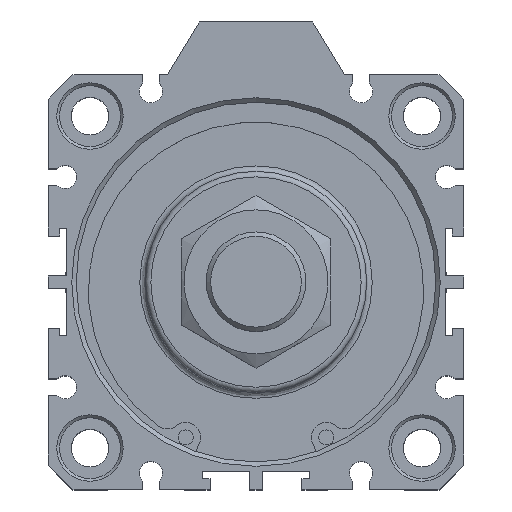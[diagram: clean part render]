
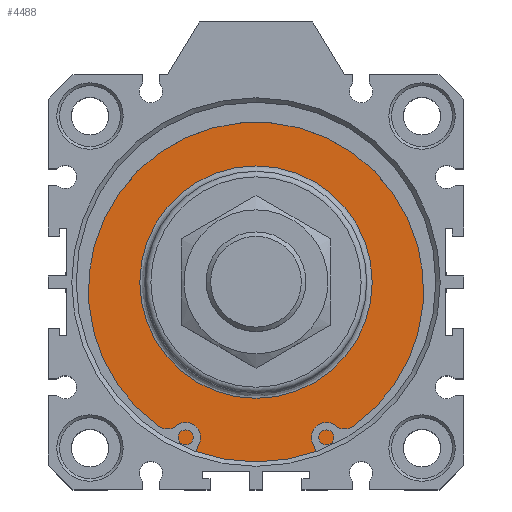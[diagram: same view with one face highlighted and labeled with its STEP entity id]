
A CAD part, top view. The second image highlights one B-rep face of the part: STEP entity #4488.
In plain terms, the highlighted planar face has unit normal (0, 0, 1).
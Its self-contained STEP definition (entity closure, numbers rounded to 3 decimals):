
#4437=CARTESIAN_POINT('',(2.99,22.555,37.3));
#4438=VERTEX_POINT('',#4437);
#4439=CARTESIAN_POINT('',(2.99,1.555,37.3));
#4440=DIRECTION('',(0.0,0.0,1.0));
#4441=DIRECTION('',(0.0,-1.0,0.0));
#4442=AXIS2_PLACEMENT_3D('',#4439,#4440,#4441);
#4443=CIRCLE('',#4442,21.);
#4444=EDGE_CURVE('',#4438,#4438,#4443,.T.);
#4469=CARTESIAN_POINT('',(2.99,27.805,37.3));
#4470=DIRECTION('',(0.0,0.0,1.0));
#4471=DIRECTION('',(1.0,0.0,0.0));
#4472=AXIS2_PLACEMENT_3D('',#4469,#4470,#4471);
#4473=PLANE('',#4472);
#4474=CARTESIAN_POINT('',(2.99,34.055,37.3));
#4475=VERTEX_POINT('',#4474);
#4476=CARTESIAN_POINT('',(2.99,1.555,37.3));
#4477=DIRECTION('',(0.0,0.0,-1.0));
#4478=DIRECTION('',(0.0,1.0,0.0));
#4479=AXIS2_PLACEMENT_3D('',#4476,#4477,#4478);
#4480=CIRCLE('',#4479,32.5);
#4481=EDGE_CURVE('',#4475,#4475,#4480,.T.);
#4482=ORIENTED_EDGE('',*,*,#4481,.F.);
#4483=EDGE_LOOP('',(#4482));
#4484=FACE_OUTER_BOUND('',#4483,.T.);
#4485=ORIENTED_EDGE('',*,*,#4444,.F.);
#4486=EDGE_LOOP('',(#4485));
#4487=FACE_BOUND('',#4486,.T.);
#4488=ADVANCED_FACE('',(#4484,#4487),#4473,.T.);
